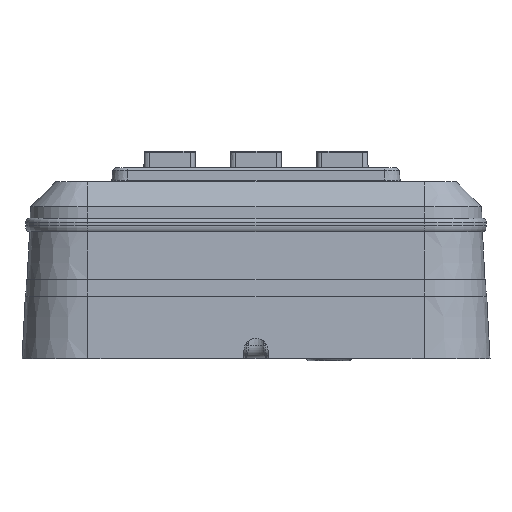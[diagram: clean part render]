
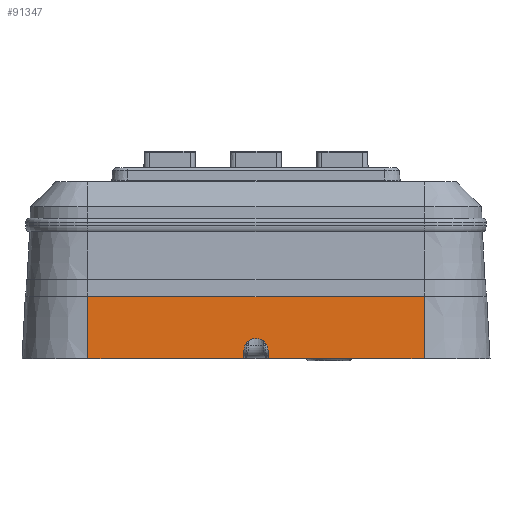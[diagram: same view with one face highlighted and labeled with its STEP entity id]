
A CAD part, front view. The second image highlights one B-rep face of the part: STEP entity #91347.
In plain terms, the highlighted planar face has unit normal (0, -0.999, 0.052).
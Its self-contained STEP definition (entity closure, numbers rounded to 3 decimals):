
#2267 = LINE ( 'NONE', #82740, #103833 ) ;
#2892 = CARTESIAN_POINT ( 'NONE',  ( -78.652, -35.452, -15.4 ) ) ;
#4508 = ORIENTED_EDGE ( 'NONE', *, *, #86383, .T. ) ;
#6792 = EDGE_CURVE ( 'NONE', #24469, #86548, #91164, .T. ) ;
#9504 = EDGE_CURVE ( 'NONE', #41404, #23405, #9817, .T. ) ;
#9817 = LINE ( 'NONE', #94808, #65215 ) ;
#12115 = DIRECTION ( 'NONE',  ( 0.052, 0.052, 0.997 ) ) ;
#13012 = ORIENTED_EDGE ( 'NONE', *, *, #52190, .T. ) ;
#13276 = DIRECTION ( 'NONE',  ( -1., 0., 0. ) ) ;
#16082 = DIRECTION ( 'NONE',  ( 0., -0.999, 0.052 ) ) ;
#16644 = DIRECTION ( 'NONE',  ( 0.052, -0.052, -0.997 ) ) ;
#18739 = AXIS2_PLACEMENT_3D ( 'NONE', #94322, #16082, #53464 ) ;
#21930 = CARTESIAN_POINT ( 'NONE',  ( -41.794, -35.216, -10.9 ) ) ;
#23405 = VERTEX_POINT ( 'NONE', #33568 ) ;
#24303 =( BOUNDED_CURVE ( )  B_SPLINE_CURVE ( 3, ( #53964, #25112, #123579, #123142 ),
 .UNSPECIFIED., .F., .F. ) 
 B_SPLINE_CURVE_WITH_KNOTS ( ( 4, 4 ),
 ( 0., 1.518 ),
 .UNSPECIFIED. ) 
 CURVE ( )  GEOMETRIC_REPRESENTATION_ITEM ( )  RATIONAL_B_SPLINE_CURVE ( ( 1., 0.817, 0.817, 1. ) ) 
 REPRESENTATION_ITEM ( '' )  );
#24469 = VERTEX_POINT ( 'NONE', #51506 ) ;
#25112 = CARTESIAN_POINT ( 'NONE',  ( -40.106, -35.216, -10.9 ) ) ;
#28173 = EDGE_CURVE ( 'NONE', #125407, #59523, #43438, .T. ) ;
#28687 = CARTESIAN_POINT ( 'NONE',  ( -41.51, -35.216, -10.9 ) ) ;
#32156 = CARTESIAN_POINT ( 'NONE',  ( -78.652, -35.452, -15.4 ) ) ;
#32677 = CARTESIAN_POINT ( 'NONE',  ( -43.777, -34.827, -3.473 ) ) ;
#33469 =( BOUNDED_CURVE ( )  B_SPLINE_CURVE ( 3, ( #42992, #92473, #112179, #33526 ),
 .UNSPECIFIED., .F., .F. ) 
 B_SPLINE_CURVE_WITH_KNOTS ( ( 4, 4 ),
 ( 4.765, 6.283 ),
 .UNSPECIFIED. ) 
 CURVE ( )  GEOMETRIC_REPRESENTATION_ITEM ( )  RATIONAL_B_SPLINE_CURVE ( ( 1., 0.817, 0.817, 1. ) ) 
 REPRESENTATION_ITEM ( '' )  );
#33526 = CARTESIAN_POINT ( 'NONE',  ( -41.794, -35.216, -10.9 ) ) ;
#33568 = CARTESIAN_POINT ( 'NONE',  ( -78.652, -34.732, -1.65 ) ) ;
#34171 = DIRECTION ( 'NONE',  ( 0., 0.052, 0.999 ) ) ;
#34901 = FACE_OUTER_BOUND ( 'NONE', #46486, .T. ) ;
#34984 = CARTESIAN_POINT ( 'NONE',  ( -44.402, -35.452, -15.4 ) ) ;
#36365 = CARTESIAN_POINT ( 'NONE',  ( -39.729, -34.625, 0.384 ) ) ;
#36643 = VECTOR ( 'NONE', #94705, 1000. ) ;
#37280 = CARTESIAN_POINT ( 'NONE',  ( -38.902, -35.452, -15.4 ) ) ;
#37682 = CARTESIAN_POINT ( 'NONE',  ( -44.29, -35.341, -13.269 ) ) ;
#41404 = VERTEX_POINT ( 'NONE', #32156 ) ;
#42722 = ORIENTED_EDGE ( 'NONE', *, *, #6792, .T. ) ;
#42992 = CARTESIAN_POINT ( 'NONE',  ( -44.29, -35.341, -13.269 ) ) ;
#43438 = LINE ( 'NONE', #32677, #81947 ) ;
#44439 = PLANE ( 'NONE',  #18739 ) ;
#45088 = CARTESIAN_POINT ( 'NONE',  ( -39.013, -35.341, -13.269 ) ) ;
#45658 = LINE ( 'NONE', #2892, #107147 ) ;
#46114 = CARTESIAN_POINT ( 'NONE',  ( -78.652, -34.732, -1.65 ) ) ;
#46486 = EDGE_LOOP ( 'NONE', ( #78831, #72538, #13012, #91611, #116649, #103761, #52419, #42722, #4508, #97264 ) ) ;
#47044 = VECTOR ( 'NONE', #94457, 1000. ) ;
#51506 = CARTESIAN_POINT ( 'NONE',  ( -4.652, -35.452, -15.4 ) ) ;
#51766 = EDGE_CURVE ( 'NONE', #125407, #41404, #2267, .T. ) ;
#52190 = EDGE_CURVE ( 'NONE', #59523, #89663, #33469, .T. ) ;
#52419 = ORIENTED_EDGE ( 'NONE', *, *, #67960, .F. ) ;
#53041 = DIRECTION ( 'NONE',  ( -1., 0., 0. ) ) ;
#53464 = DIRECTION ( 'NONE',  ( 0., -0.052, -0.999 ) ) ;
#53964 = CARTESIAN_POINT ( 'NONE',  ( -41.51, -35.216, -10.9 ) ) ;
#59523 = VERTEX_POINT ( 'NONE', #37682 ) ;
#65215 = VECTOR ( 'NONE', #105074, 1000. ) ;
#67960 = EDGE_CURVE ( 'NONE', #24469, #95539, #45658, .T. ) ;
#72148 = VERTEX_POINT ( 'NONE', #28687 ) ;
#72538 = ORIENTED_EDGE ( 'NONE', *, *, #28173, .T. ) ;
#73756 = CARTESIAN_POINT ( 'NONE',  ( -4.652, -34.732, -1.65 ) ) ;
#77312 = VECTOR ( 'NONE', #34171, 1000. ) ;
#78831 = ORIENTED_EDGE ( 'NONE', *, *, #51766, .F. ) ;
#81947 = VECTOR ( 'NONE', #12115, 1000. ) ;
#82441 = LINE ( 'NONE', #84571, #47044 ) ;
#82608 = VECTOR ( 'NONE', #16644, 1000. ) ;
#82740 = CARTESIAN_POINT ( 'NONE',  ( -78.652, -35.452, -15.4 ) ) ;
#84571 = CARTESIAN_POINT ( 'NONE',  ( -78.652, -35.216, -10.9 ) ) ;
#85163 = EDGE_CURVE ( 'NONE', #89663, #72148, #82441, .T. ) ;
#86383 = EDGE_CURVE ( 'NONE', #86548, #23405, #99772, .T. ) ;
#86548 = VERTEX_POINT ( 'NONE', #123570 ) ;
#89663 = VERTEX_POINT ( 'NONE', #21930 ) ;
#91164 = LINE ( 'NONE', #73756, #77312 ) ;
#91347 = ADVANCED_FACE ( 'NONE', ( #34901 ), #44439, .T. ) ;
#91611 = ORIENTED_EDGE ( 'NONE', *, *, #85163, .T. ) ;
#92473 = CARTESIAN_POINT ( 'NONE',  ( -44.217, -35.267, -11.867 ) ) ;
#94322 = CARTESIAN_POINT ( 'NONE',  ( -78.652, -34.732, -1.65 ) ) ;
#94457 = DIRECTION ( 'NONE',  ( 1., 0., 0. ) ) ;
#94705 = DIRECTION ( 'NONE',  ( -1., 0., 0. ) ) ;
#94808 = CARTESIAN_POINT ( 'NONE',  ( -78.652, -34.732, -1.65 ) ) ;
#95539 = VERTEX_POINT ( 'NONE', #37280 ) ;
#96444 = LINE ( 'NONE', #36365, #82608 ) ;
#97264 = ORIENTED_EDGE ( 'NONE', *, *, #9504, .F. ) ;
#98599 = VERTEX_POINT ( 'NONE', #45088 ) ;
#99772 = LINE ( 'NONE', #46114, #36643 ) ;
#103761 = ORIENTED_EDGE ( 'NONE', *, *, #104620, .T. ) ;
#103833 = VECTOR ( 'NONE', #53041, 1000. ) ;
#104620 = EDGE_CURVE ( 'NONE', #98599, #95539, #96444, .T. ) ;
#105074 = DIRECTION ( 'NONE',  ( 0., 0.052, 0.999 ) ) ;
#107147 = VECTOR ( 'NONE', #13276, 1000. ) ;
#112179 = CARTESIAN_POINT ( 'NONE',  ( -43.198, -35.216, -10.9 ) ) ;
#116649 = ORIENTED_EDGE ( 'NONE', *, *, #120148, .T. ) ;
#120148 = EDGE_CURVE ( 'NONE', #72148, #98599, #24303, .T. ) ;
#123142 = CARTESIAN_POINT ( 'NONE',  ( -39.013, -35.341, -13.269 ) ) ;
#123570 = CARTESIAN_POINT ( 'NONE',  ( -4.652, -34.732, -1.65 ) ) ;
#123579 = CARTESIAN_POINT ( 'NONE',  ( -39.087, -35.267, -11.867 ) ) ;
#125407 = VERTEX_POINT ( 'NONE', #34984 ) ;
